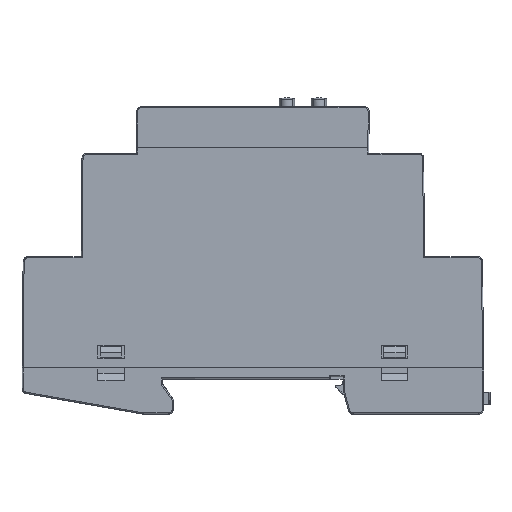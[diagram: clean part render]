
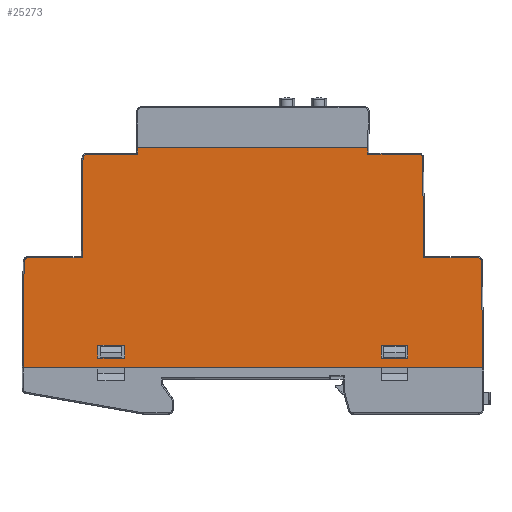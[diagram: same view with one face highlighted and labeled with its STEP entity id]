
A CAD part, top view. The second image highlights one B-rep face of the part: STEP entity #25273.
In plain terms, the highlighted planar face has unit normal (0, 0, 1).
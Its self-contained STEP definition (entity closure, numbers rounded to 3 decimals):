
#556=FACE_BOUND('',#5312,.T.);
#557=FACE_BOUND('',#5313,.T.);
#1396=CIRCLE('',#26976,0.8);
#1400=CIRCLE('',#26988,0.8);
#1454=CIRCLE('',#27224,0.8);
#1457=CIRCLE('',#27235,0.8);
#3949=FACE_OUTER_BOUND('',#5311,.T.);
#5311=EDGE_LOOP('',(#22544,#22545,#22546,#22547,#22548,#22549,#22550,#22551,
#22552,#22553,#22554,#22555,#22556,#22557,#22558,#22559));
#5312=EDGE_LOOP('',(#22560,#22561,#22562,#22563));
#5313=EDGE_LOOP('',(#22564,#22565,#22566,#22567));
#7614=LINE('',#40974,#10178);
#7617=LINE('',#40979,#10181);
#7619=LINE('',#40983,#10183);
#7621=LINE('',#40986,#10185);
#7622=LINE('',#40990,#10186);
#7625=LINE('',#40995,#10189);
#7627=LINE('',#40999,#10191);
#7629=LINE('',#41002,#10193);
#7631=LINE('',#41010,#10195);
#7632=LINE('',#41023,#10196);
#7633=LINE('',#41026,#10197);
#7637=LINE('',#41032,#10201);
#7638=LINE('',#41036,#10202);
#7639=LINE('',#41039,#10203);
#7640=LINE('',#41050,#10204);
#7716=LINE('',#41713,#10280);
#7843=LINE('',#42368,#10407);
#7882=LINE('',#42556,#10446);
#7883=LINE('',#42557,#10447);
#7884=LINE('',#42558,#10448);
#10178=VECTOR('',#32682,2.5);
#10181=VECTOR('',#32687,5.2);
#10183=VECTOR('',#32691,2.5);
#10185=VECTOR('',#32695,5.2);
#10186=VECTOR('',#32698,2.5);
#10189=VECTOR('',#32703,5.2);
#10191=VECTOR('',#32707,2.5);
#10193=VECTOR('',#32711,5.2);
#10195=VECTOR('',#32717,10.488);
#10196=VECTOR('',#32734,9.875);
#10197=VECTOR('',#32737,1.3);
#10201=VECTOR('',#32743,44.738);
#10202=VECTOR('',#32748,1.3);
#10203=VECTOR('',#32751,9.875);
#10204=VECTOR('',#32764,10.488);
#10280=VECTOR('',#32972,19.308);
#10407=VECTOR('',#33383,19.308);
#10446=VECTOR('',#33500,3.927);
#10447=VECTOR('',#33501,15.558);
#10448=VECTOR('',#33502,15.558);
#12501=VERTEX_POINT('',#40972);
#12502=VERTEX_POINT('',#40973);
#12503=VERTEX_POINT('',#40978);
#12504=VERTEX_POINT('',#40982);
#12505=VERTEX_POINT('',#40988);
#12506=VERTEX_POINT('',#40989);
#12507=VERTEX_POINT('',#40994);
#12508=VERTEX_POINT('',#40998);
#12511=VERTEX_POINT('',#41007);
#12512=VERTEX_POINT('',#41009);
#12513=VERTEX_POINT('',#41013);
#12515=VERTEX_POINT('',#41017);
#12516=VERTEX_POINT('',#41021);
#12517=VERTEX_POINT('',#41025);
#12518=VERTEX_POINT('',#41029);
#12519=VERTEX_POINT('',#41034);
#12520=VERTEX_POINT('',#41038);
#12521=VERTEX_POINT('',#41042);
#12523=VERTEX_POINT('',#41048);
#12524=VERTEX_POINT('',#41049);
#12707=VERTEX_POINT('',#42504);
#12722=VERTEX_POINT('',#42550);
#12723=VERTEX_POINT('',#42554);
#12724=VERTEX_POINT('',#42555);
#15692=EDGE_CURVE('',#12501,#12502,#7614,.T.);
#15695=EDGE_CURVE('',#12502,#12503,#7617,.T.);
#15697=EDGE_CURVE('',#12503,#12504,#7619,.T.);
#15699=EDGE_CURVE('',#12504,#12501,#7621,.T.);
#15700=EDGE_CURVE('',#12505,#12506,#7622,.T.);
#15703=EDGE_CURVE('',#12506,#12507,#7625,.T.);
#15705=EDGE_CURVE('',#12507,#12508,#7627,.T.);
#15707=EDGE_CURVE('',#12508,#12505,#7629,.T.);
#15710=EDGE_CURVE('',#12511,#12512,#7631,.T.);
#15715=EDGE_CURVE('',#12515,#12513,#1396,.T.);
#15717=EDGE_CURVE('',#12513,#12516,#7632,.T.);
#15718=EDGE_CURVE('',#12516,#12517,#7633,.T.);
#15722=EDGE_CURVE('',#12518,#12517,#7637,.T.);
#15724=EDGE_CURVE('',#12518,#12519,#7638,.T.);
#15725=EDGE_CURVE('',#12519,#12520,#7639,.T.);
#15729=EDGE_CURVE('',#12520,#12521,#1400,.T.);
#15730=EDGE_CURVE('',#12523,#12524,#7640,.T.);
#15845=EDGE_CURVE('',#12512,#12515,#7716,.T.);
#16050=EDGE_CURVE('',#12521,#12523,#7843,.T.);
#16091=EDGE_CURVE('',#12524,#12707,#1454,.T.);
#16114=EDGE_CURVE('',#12722,#12511,#1457,.T.);
#16115=EDGE_CURVE('',#12723,#12724,#7882,.T.);
#16116=EDGE_CURVE('',#12707,#12723,#7883,.T.);
#16117=EDGE_CURVE('',#12724,#12722,#7884,.T.);
#22544=ORIENTED_EDGE('',*,*,#16115,.F.);
#22545=ORIENTED_EDGE('',*,*,#16116,.F.);
#22546=ORIENTED_EDGE('',*,*,#16091,.F.);
#22547=ORIENTED_EDGE('',*,*,#15730,.F.);
#22548=ORIENTED_EDGE('',*,*,#16050,.F.);
#22549=ORIENTED_EDGE('',*,*,#15729,.F.);
#22550=ORIENTED_EDGE('',*,*,#15725,.F.);
#22551=ORIENTED_EDGE('',*,*,#15724,.F.);
#22552=ORIENTED_EDGE('',*,*,#15722,.T.);
#22553=ORIENTED_EDGE('',*,*,#15718,.F.);
#22554=ORIENTED_EDGE('',*,*,#15717,.F.);
#22555=ORIENTED_EDGE('',*,*,#15715,.F.);
#22556=ORIENTED_EDGE('',*,*,#15845,.F.);
#22557=ORIENTED_EDGE('',*,*,#15710,.F.);
#22558=ORIENTED_EDGE('',*,*,#16114,.F.);
#22559=ORIENTED_EDGE('',*,*,#16117,.F.);
#22560=ORIENTED_EDGE('',*,*,#15707,.F.);
#22561=ORIENTED_EDGE('',*,*,#15705,.F.);
#22562=ORIENTED_EDGE('',*,*,#15703,.F.);
#22563=ORIENTED_EDGE('',*,*,#15700,.F.);
#22564=ORIENTED_EDGE('',*,*,#15699,.F.);
#22565=ORIENTED_EDGE('',*,*,#15697,.F.);
#22566=ORIENTED_EDGE('',*,*,#15695,.F.);
#22567=ORIENTED_EDGE('',*,*,#15692,.F.);
#24005=PLANE('',#27236);
#25273=ADVANCED_FACE('',(#3949,#556,#557),#24005,.T.);
#26976=AXIS2_PLACEMENT_3D('',#41019,#32728,#32729);
#26988=AXIS2_PLACEMENT_3D('',#41046,#32760,#32761);
#27224=AXIS2_PLACEMENT_3D('',#42507,#33455,#33456);
#27235=AXIS2_PLACEMENT_3D('',#42552,#33496,#33497);
#27236=AXIS2_PLACEMENT_3D('',#42553,#33498,#33499);
#32682=DIRECTION('',(0.,1.,0.));
#32687=DIRECTION('',(-1.,0.,0.));
#32691=DIRECTION('',(0.,-1.,0.));
#32695=DIRECTION('',(1.,0.,0.));
#32698=DIRECTION('',(0.,-1.,0.));
#32703=DIRECTION('',(1.,0.,0.));
#32707=DIRECTION('',(0.,1.,0.));
#32711=DIRECTION('',(-1.,0.,0.));
#32717=DIRECTION('',(1.,0.,0.));
#32728=DIRECTION('center_axis',(0.,0.,-1.));
#32729=DIRECTION('ref_axis',(-0.704,0.71,0.));
#32734=DIRECTION('',(1.,0.,0.));
#32737=DIRECTION('',(-0.009,1.,0.));
#32743=DIRECTION('',(-1.,0.,0.));
#32748=DIRECTION('',(-0.009,-1.,0.));
#32751=DIRECTION('',(1.,0.,0.));
#32760=DIRECTION('center_axis',(0.,0.,-1.));
#32761=DIRECTION('ref_axis',(0.704,0.71,0.));
#32764=DIRECTION('',(1.,0.,0.));
#32972=DIRECTION('',(0.009,1.,0.));
#33383=DIRECTION('',(0.009,-1.,0.));
#33455=DIRECTION('center_axis',(0.,0.,-1.));
#33456=DIRECTION('ref_axis',(0.704,0.71,0.));
#33496=DIRECTION('center_axis',(0.,0.,-1.));
#33497=DIRECTION('ref_axis',(-0.704,0.71,0.));
#33498=DIRECTION('center_axis',(0.,0.,1.));
#33499=DIRECTION('ref_axis',(1.,0.,0.));
#33500=DIRECTION('',(-1.,0.,0.));
#33501=DIRECTION('',(0.009,-1.,0.));
#33502=DIRECTION('',(0.009,1.,0.));
#40972=CARTESIAN_POINT('',(-24.95,5.15,17.9));
#40973=CARTESIAN_POINT('',(-24.95,7.65,17.9));
#40974=CARTESIAN_POINT('',(-24.95,5.15,17.9));
#40978=CARTESIAN_POINT('',(-30.15,7.65,17.9));
#40979=CARTESIAN_POINT('',(-24.95,7.65,17.9));
#40982=CARTESIAN_POINT('',(-30.15,5.15,17.9));
#40983=CARTESIAN_POINT('',(-30.15,7.65,17.9));
#40986=CARTESIAN_POINT('',(-30.15,5.15,17.9));
#40988=CARTESIAN_POINT('',(24.95,7.65,17.9));
#40989=CARTESIAN_POINT('',(24.95,5.15,17.9));
#40990=CARTESIAN_POINT('',(24.95,7.65,17.9));
#40994=CARTESIAN_POINT('',(30.15,5.15,17.9));
#40995=CARTESIAN_POINT('',(24.95,5.15,17.9));
#40998=CARTESIAN_POINT('',(30.15,7.65,17.9));
#40999=CARTESIAN_POINT('',(30.15,5.15,17.9));
#41002=CARTESIAN_POINT('',(30.15,7.65,17.9));
#41007=CARTESIAN_POINT('',(-43.69,24.7,17.9));
#41009=CARTESIAN_POINT('',(-33.202,24.7,17.9));
#41010=CARTESIAN_POINT('',(-43.69,24.7,17.9));
#41013=CARTESIAN_POINT('',(-32.233,44.8,17.9));
#41017=CARTESIAN_POINT('',(-33.033,44.007,17.9));
#41019=CARTESIAN_POINT('Origin',(-32.233,44.,17.9));
#41021=CARTESIAN_POINT('',(-22.358,44.8,17.9));
#41023=CARTESIAN_POINT('',(-32.233,44.8,17.9));
#41025=CARTESIAN_POINT('',(-22.369,46.1,17.9));
#41026=CARTESIAN_POINT('',(-22.358,44.8,17.9));
#41029=CARTESIAN_POINT('',(22.369,46.1,17.9));
#41032=CARTESIAN_POINT('',(22.369,46.1,17.9));
#41034=CARTESIAN_POINT('',(22.358,44.8,17.9));
#41036=CARTESIAN_POINT('',(22.369,46.1,17.9));
#41038=CARTESIAN_POINT('',(32.233,44.8,17.9));
#41039=CARTESIAN_POINT('',(22.358,44.8,17.9));
#41042=CARTESIAN_POINT('',(33.033,44.007,17.9));
#41046=CARTESIAN_POINT('Origin',(32.233,44.,17.9));
#41048=CARTESIAN_POINT('',(33.202,24.7,17.9));
#41049=CARTESIAN_POINT('',(43.69,24.7,17.9));
#41050=CARTESIAN_POINT('',(33.202,24.7,17.9));
#41713=CARTESIAN_POINT('',(-33.202,24.7,17.9));
#42368=CARTESIAN_POINT('',(33.033,44.007,17.9));
#42504=CARTESIAN_POINT('',(44.49,23.907,17.9));
#42507=CARTESIAN_POINT('Origin',(43.69,23.9,17.9));
#42550=CARTESIAN_POINT('',(-44.49,23.907,17.9));
#42552=CARTESIAN_POINT('Origin',(-43.69,23.9,17.9));
#42553=CARTESIAN_POINT('Origin',(0.,29.976,17.9));
#42554=CARTESIAN_POINT('',(44.67,3.25,17.9));
#42555=CARTESIAN_POINT('',(-44.67,3.25,17.9));
#42556=CARTESIAN_POINT('',(-40.699,3.25,17.9));
#42557=CARTESIAN_POINT('',(44.49,23.907,17.9));
#42558=CARTESIAN_POINT('',(-44.626,8.35,17.9));
